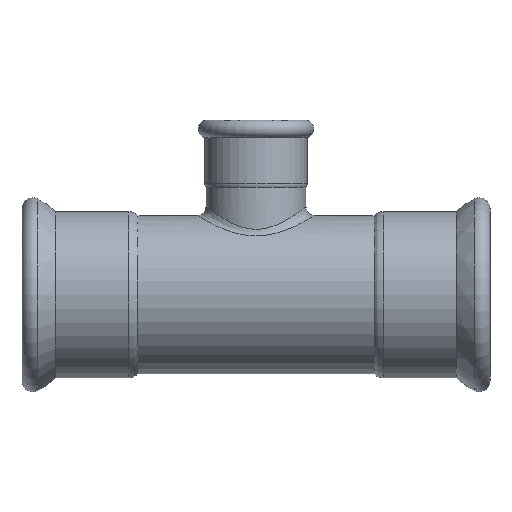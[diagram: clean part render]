
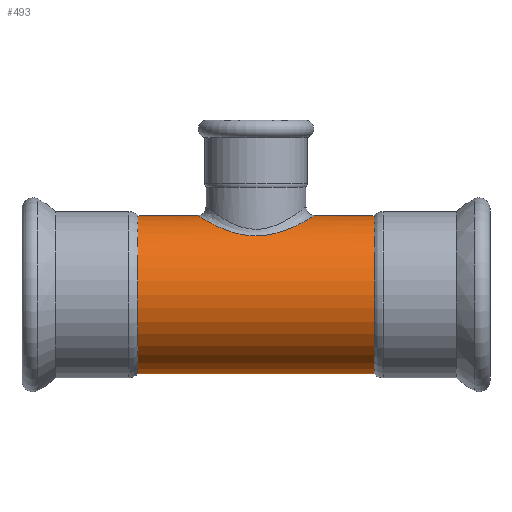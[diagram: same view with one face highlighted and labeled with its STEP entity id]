
A CAD part, front view. The second image highlights one B-rep face of the part: STEP entity #493.
In plain terms, the highlighted cylindrical face has radius 44.45 mm (diameter 88.9 mm), a full revolution.
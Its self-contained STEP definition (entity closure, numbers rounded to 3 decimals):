
#20=B_SPLINE_CURVE_WITH_KNOTS($,3,(#1382,#1383,#1384,#1385,#1386,#1387,
#1388,#1389,#1390,#1391,#1392,#1393,#1394,#1395,#1396,#1397,#1398,#1399,
#1400,#1401,#1402,#1403,#1404,#1405,#1406,#1407,#1408,#1409,#1410,#1411,
#1412,#1413,#1414,#1415,#1416,#1417,#1418),.UNSPECIFIED.,.T.,.F.,(4,3,1,
1,1,1,1,1,1,1,1,1,1,1,1,1,1,1,1,1,1,1,1,1,1,1,1,1,1,1,1,1,4),(-17.48,
-17.48,-16.856,-16.388,-16.231,-15.607,
-14.983,-14.671,-14.567,-14.15,
-13.318,-12.694,-12.486,-11.653,
-10.821,-10.509,-9.989,-9.156,
-8.324,-7.491,-7.075,-6.763,
-6.659,-5.827,-4.994,-4.37,
-4.162,-3.33,-2.497,-2.185,-1.249,
-0.624,0.),.UNSPECIFIED.);
#60=FACE_BOUND($,#182,.T.);
#61=FACE_BOUND($,#183,.T.);
#93=CYLINDRICAL_SURFACE($,#565,44.45);
#122=FACE_OUTER_BOUND($,#181,.T.);
#181=EDGE_LOOP($,(#424));
#182=EDGE_LOOP($,(#425));
#183=EDGE_LOOP($,(#426));
#255=CIRCLE($,#566,44.45);
#256=CIRCLE($,#567,44.45);
#300=VERTEX_POINT($,#1342);
#302=VERTEX_POINT($,#1421);
#303=VERTEX_POINT($,#1423);
#352=EDGE_CURVE($,#300,#300,#20,.T.);
#353=EDGE_CURVE($,#302,#302,#255,.T.);
#354=EDGE_CURVE($,#303,#303,#256,.T.);
#424=ORIENTED_EDGE($,*,*,#353,.F.);
#425=ORIENTED_EDGE($,*,*,#354,.T.);
#426=ORIENTED_EDGE($,*,*,#352,.F.);
#493=ADVANCED_FACE($,(#122,#60,#61),#93,.T.);
#565=AXIS2_PLACEMENT_3D($,#1420,#699,#700);
#566=AXIS2_PLACEMENT_3D($,#1422,#701,#702);
#567=AXIS2_PLACEMENT_3D($,#1424,#703,#704);
#699=DIRECTION('center_axis',(1.,0.,0.));
#700=DIRECTION('ref_axis',(0.,1.,0.));
#701=DIRECTION('center_axis',(1.,0.,0.));
#702=DIRECTION('ref_axis',(0.,1.,0.));
#703=DIRECTION('center_axis',(1.,0.,0.));
#704=DIRECTION('ref_axis',(0.,1.,0.));
#1342=CARTESIAN_POINT('',(-131.5,-29.663,33.104));
#1382=CARTESIAN_POINT('Ctrl Pts',(-131.5,-29.664,33.103));
#1383=CARTESIAN_POINT('Ctrl Pts',(-131.5,-29.664,33.103));
#1384=CARTESIAN_POINT('Ctrl Pts',(-131.5,-29.664,33.103));
#1385=CARTESIAN_POINT('Ctrl Pts',(-131.5,-29.664,33.103));
#1386=CARTESIAN_POINT('Ctrl Pts',(-128.954,-29.664,33.103));
#1387=CARTESIAN_POINT('Ctrl Pts',(-124.504,-29.192,33.536));
#1388=CARTESIAN_POINT('Ctrl Pts',(-119.778,-27.8,34.699));
#1389=CARTESIAN_POINT('Ctrl Pts',(-115.312,-25.97,36.099));
#1390=CARTESIAN_POINT('Ctrl Pts',(-110.766,-23.375,37.908));
#1391=CARTESIAN_POINT('Ctrl Pts',(-106.476,-19.549,39.997));
#1392=CARTESIAN_POINT('Ctrl Pts',(-104.131,-16.625,41.241));
#1393=CARTESIAN_POINT('Ctrl Pts',(-102.423,-14.127,42.173));
#1394=CARTESIAN_POINT('Ctrl Pts',(-100.036,-9.79,43.526));
#1395=CARTESIAN_POINT('Ctrl Pts',(-98.266,-3.076,44.593));
#1396=CARTESIAN_POINT('Ctrl Pts',(-98.538,3.092,44.426));
#1397=CARTESIAN_POINT('Ctrl Pts',(-99.835,9.054,43.655));
#1398=CARTESIAN_POINT('Ctrl Pts',(-102.694,15.343,41.981));
#1399=CARTESIAN_POINT('Ctrl Pts',(-107.537,20.698,39.431));
#1400=CARTESIAN_POINT('Ctrl Pts',(-112.455,24.354,37.227));
#1401=CARTESIAN_POINT('Ctrl Pts',(-117.937,27.354,35.12));
#1402=CARTESIAN_POINT('Ctrl Pts',(-126.304,29.777,33.01));
#1403=CARTESIAN_POINT('Ctrl Pts',(-136.721,29.772,33.01));
#1404=CARTESIAN_POINT('Ctrl Pts',(-144.669,27.47,35.02));
#1405=CARTESIAN_POINT('Ctrl Pts',(-149.9,24.72,36.97));
#1406=CARTESIAN_POINT('Ctrl Pts',(-152.417,22.98,38.062));
#1407=CARTESIAN_POINT('Ctrl Pts',(-155.985,20.116,39.706));
#1408=CARTESIAN_POINT('Ctrl Pts',(-160.312,15.341,41.984));
#1409=CARTESIAN_POINT('Ctrl Pts',(-163.809,7.631,44.034));
#1410=CARTESIAN_POINT('Ctrl Pts',(-164.598,1.517,44.509));
#1411=CARTESIAN_POINT('Ctrl Pts',(-164.339,-4.591,44.354));
#1412=CARTESIAN_POINT('Ctrl Pts',(-162.546,-11.325,43.275));
#1413=CARTESIAN_POINT('Ctrl Pts',(-158.556,-17.349,41.034));
#1414=CARTESIAN_POINT('Ctrl Pts',(-153.174,-22.704,38.348));
#1415=CARTESIAN_POINT('Ctrl Pts',(-147.306,-26.468,35.803));
#1416=CARTESIAN_POINT('Ctrl Pts',(-139.145,-29.125,33.599));
#1417=CARTESIAN_POINT('Ctrl Pts',(-134.045,-29.664,33.103));
#1418=CARTESIAN_POINT('Ctrl Pts',(-131.5,-29.664,33.103));
#1420=CARTESIAN_POINT('Origin',(-74.594,0.,0.));
#1421=CARTESIAN_POINT('',(-65.187,44.45,0.));
#1422=CARTESIAN_POINT('Origin',(-65.187,0.,0.));
#1423=CARTESIAN_POINT('',(-197.813,44.45,0.));
#1424=CARTESIAN_POINT('Origin',(-197.813,0.,0.));
